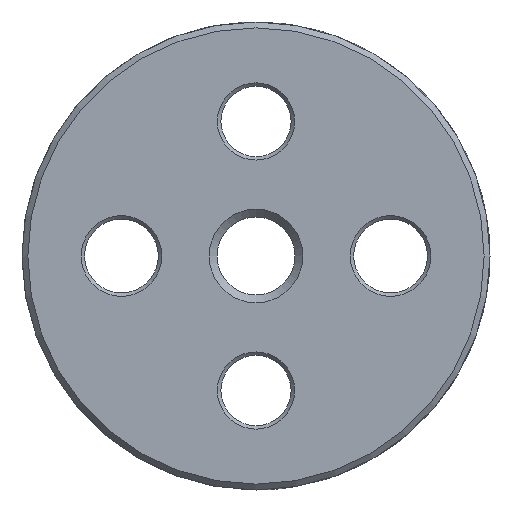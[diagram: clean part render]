
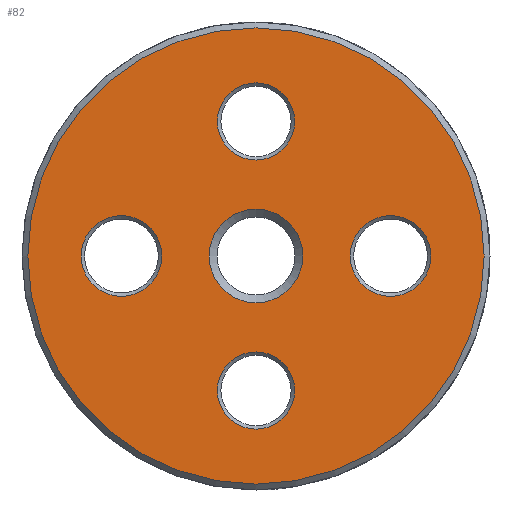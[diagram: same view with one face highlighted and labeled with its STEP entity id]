
A CAD part, front view. The second image highlights one B-rep face of the part: STEP entity #82.
In plain terms, the highlighted planar face has unit normal (0, -1, 0).
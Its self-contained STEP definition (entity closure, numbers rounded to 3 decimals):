
#82 = ADVANCED_FACE( '', ( #125, #126, #127, #128, #129, #130 ), #131, .F. );
#125 = FACE_BOUND( '', #218, .T. );
#126 = FACE_BOUND( '', #219, .T. );
#127 = FACE_BOUND( '', #220, .T. );
#128 = FACE_BOUND( '', #221, .T. );
#129 = FACE_BOUND( '', #222, .T. );
#130 = FACE_OUTER_BOUND( '', #223, .T. );
#131 = PLANE( '', #224 );
#218 = EDGE_LOOP( '', ( #357 ) );
#219 = EDGE_LOOP( '', ( #358 ) );
#220 = EDGE_LOOP( '', ( #359 ) );
#221 = EDGE_LOOP( '', ( #360 ) );
#222 = EDGE_LOOP( '', ( #361 ) );
#223 = EDGE_LOOP( '', ( #362 ) );
#224 = AXIS2_PLACEMENT_3D( '', #363, #364, #365 );
#357 = ORIENTED_EDGE( '', *, *, #553, .F. );
#358 = ORIENTED_EDGE( '', *, *, #554, .F. );
#359 = ORIENTED_EDGE( '', *, *, #555, .F. );
#360 = ORIENTED_EDGE( '', *, *, #556, .F. );
#361 = ORIENTED_EDGE( '', *, *, #557, .F. );
#362 = ORIENTED_EDGE( '', *, *, #552, .T. );
#363 = CARTESIAN_POINT( '', ( 19.5, 0., 0. ) );
#364 = DIRECTION( '', ( 0., 1., 0. ) );
#365 = DIRECTION( '', ( 0., 0., 1. ) );
#552 = EDGE_CURVE( '', #640, #640, #641, .T. );
#553 = EDGE_CURVE( '', #642, #642, #643, .T. );
#554 = EDGE_CURVE( '', #644, #644, #645, .F. );
#555 = EDGE_CURVE( '', #646, #646, #647, .T. );
#556 = EDGE_CURVE( '', #648, #648, #649, .T. );
#557 = EDGE_CURVE( '', #650, #650, #651, .T. );
#640 = VERTEX_POINT( '', #856 );
#641 = CIRCLE( '', #857, 19.5 );
#642 = VERTEX_POINT( '', #858 );
#643 = CIRCLE( '', #859, 4. );
#644 = VERTEX_POINT( '', #860 );
#645 = CIRCLE( '', #861, 3.45 );
#646 = VERTEX_POINT( '', #862 );
#647 = CIRCLE( '', #863, 3.3 );
#648 = VERTEX_POINT( '', #864 );
#649 = CIRCLE( '', #865, 3.3 );
#650 = VERTEX_POINT( '', #866 );
#651 = CIRCLE( '', #867, 3.45 );
#856 = CARTESIAN_POINT( '', ( 0., 0., -19.5 ) );
#857 = AXIS2_PLACEMENT_3D( '', #980, #981, #982 );
#858 = CARTESIAN_POINT( '', ( 0., 0., -4. ) );
#859 = AXIS2_PLACEMENT_3D( '', #983, #984, #985 );
#860 = CARTESIAN_POINT( '', ( 11.5, 0., 3.45 ) );
#861 = AXIS2_PLACEMENT_3D( '', #986, #987, #988 );
#862 = CARTESIAN_POINT( '', ( 0., 0., 8.2 ) );
#863 = AXIS2_PLACEMENT_3D( '', #989, #990, #991 );
#864 = CARTESIAN_POINT( '', ( 0., 0., -14.8 ) );
#865 = AXIS2_PLACEMENT_3D( '', #992, #993, #994 );
#866 = CARTESIAN_POINT( '', ( -11.5, 0., -3.45 ) );
#867 = AXIS2_PLACEMENT_3D( '', #995, #996, #997 );
#980 = CARTESIAN_POINT( '', ( 0., 0., 0. ) );
#981 = DIRECTION( '', ( 0., -1., 0. ) );
#982 = DIRECTION( '', ( 0., 0., -1. ) );
#983 = CARTESIAN_POINT( '', ( 0., 0., 0. ) );
#984 = DIRECTION( '', ( 0., -1., 0. ) );
#985 = DIRECTION( '', ( 0., 0., -1. ) );
#986 = CARTESIAN_POINT( '', ( 11.5, 0., 0. ) );
#987 = DIRECTION( '', ( 0., 1., 0. ) );
#988 = DIRECTION( '', ( 0., 0., 1. ) );
#989 = CARTESIAN_POINT( '', ( 0., 0., 11.5 ) );
#990 = DIRECTION( '', ( 0., -1., 0. ) );
#991 = DIRECTION( '', ( 0., 0., -1. ) );
#992 = CARTESIAN_POINT( '', ( 0., 0., -11.5 ) );
#993 = DIRECTION( '', ( 0., -1., 0. ) );
#994 = DIRECTION( '', ( 0., 0., -1. ) );
#995 = CARTESIAN_POINT( '', ( -11.5, 0., 0. ) );
#996 = DIRECTION( '', ( 0., -1., 0. ) );
#997 = DIRECTION( '', ( 0., 0., -1. ) );
